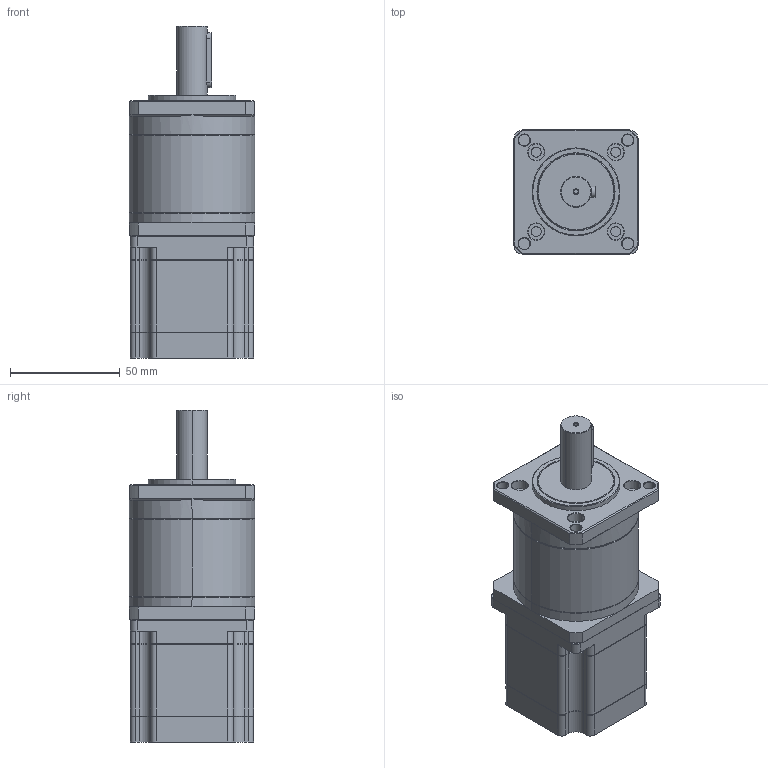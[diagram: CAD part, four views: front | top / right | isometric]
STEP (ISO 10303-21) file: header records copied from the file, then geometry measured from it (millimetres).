
FILE_DESCRIPTION (( 'STEP AP203' ), '1' );
FILE_NAME ('YK57H56-PG15.STEP', '2021-06-02T06:27:33', ( 'Admin' ), ( '' ), 'SwSTEP 2.0', 'SolidWorks 2016', '' );
FILE_SCHEMA (( 'CONFIG_CONTROL_DESIGN' ));
Length unit declared in the file: millimetre
Products named in the file (1): YK57H56-PG15
Bounding box: 57 x 57 x 151.15 mm (x, y, z)
Volume: 329253.3 mm3; surface area: 34764.1 mm2
Topology: 1 solids, 2 shells, 306 faces, 716 edges, 429 vertices
Faces by surface type: plane 128, cylinder 91, cone 87
Entity records: 8814 total; most frequent: CARTESIAN_POINT 1612, DIRECTION 1573, ORIENTED_EDGE 1432, EDGE_CURVE 716, AXIS2_PLACEMENT_3D 586, VERTEX_POINT 429, LINE 401, VECTOR 401
